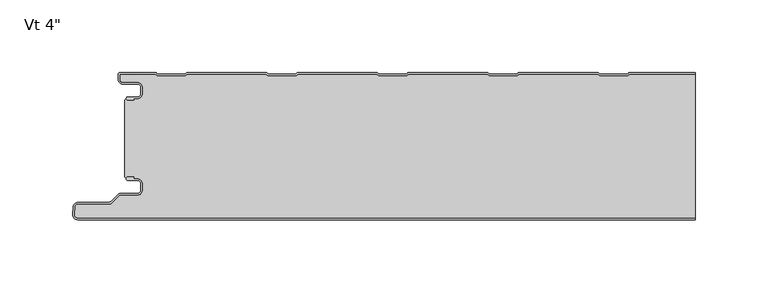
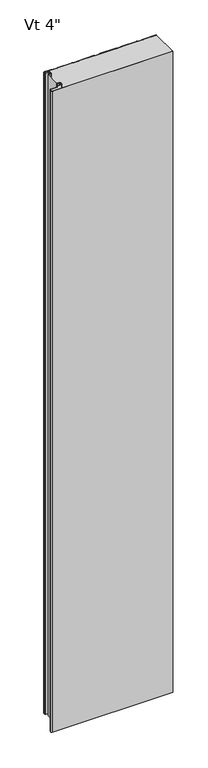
"""IFC4 building model written with IfcOpenShell, lengths in millimetres: plate geometry."""

from ifc_helpers import new_model, si_unit, point, frame, frame_2d, origin, origin_with_axes, place, context, project, spatial, polyline, circle_curve, trimmed, segment, composite_curve, outline, extrude, source, transform, mapped, element, save
from ifc_brep_helpers import plane_surface, cylinder_surface, revolved_surface, advanced_brep


def plate_50d09dfa(model_context):
    return source(origin(), model_context, "Body", "SolidModel", [
        advanced_brep(
        [(-194.568691, -17.0015405, 2400.0), (-195.5686883, -18.0015437, 2400.0), (-194.568691, -19.0015351, 2400.0), (-190.5684874, -19.0015351, 2400.0), (-190.5684874, -18.0015405, 2400.0), (-187.8762776, -18.0015405, 2400.0), (-184.5762819, -14.7015449, 2400.0), (-184.5762819, -10.3015536, 2400.0), (-187.8762774, -7.0015581, 2400.0), (-198.2962563, -7.0015581, 2400.0), (-200.0662505, -5.2315639, 2400.0), (-200.0662505, -1.0000163, 2400.0), (-175.5659738, -1.0000163, 2400.0), (-174.1803312, -2.2002553, 2400.0), (-154.8051649, -2.2002553, 2400.0), (-153.419532, -1.0000246, 2400.0), (-99.3661166, -1.0000246, 2400.0), (-97.9804836, -2.2002553, 2400.0), (-78.6053173, -2.2002553, 2400.0), (-77.2196844, -1.0000246, 2400.0), (-23.166269, -1.0000246, 2400.0), (-21.780636, -2.2002553, 2400.0), (-2.4054697, -2.2002553, 2400.0), (-1.0198368, -1.0000246, 2400.0), (53.0335786, -1.0000246, 2400.0), (54.4192116, -2.2002553, 2400.0), (73.7943779, -2.2002553, 2400.0), (75.1800108, -1.0000246, 2400.0), (129.2334262, -1.0000246, 2400.0), (130.6190592, -2.2002553, 2400.0), (149.9942255, -2.2002553, 2400.0), (151.3798584, -1.0000246, 2400.0), (196.5999998, -1.0000246, 2400.0), (196.5999998, -2.46e-05, 2400.0), (151.5290096, -2.46e-05, 2400.0), (150.6123927, -0.3418131, 2400.0), (149.6213451, -1.2002553, 2400.0), (130.9919396, -1.2002553, 2400.0), (130.000892, -0.3418131, 2400.0), (129.0842751, -2.46e-05, 2400.0), (75.329162, -2.46e-05, 2400.0), (74.4125451, -0.3418131, 2400.0), (73.4214975, -1.2002553, 2400.0), (54.792092, -1.2002553, 2400.0), (53.8010444, -0.3418131, 2400.0), (52.8844275, -2.46e-05, 2400.0), (-0.8706856, -2.46e-05, 2400.0), (-1.7873025, -0.3418131, 2400.0), (-2.7783501, -1.2002553, 2400.0), (-21.4077556, -1.2002553, 2400.0), (-22.3988032, -0.3418131, 2400.0), (-23.3154201, -2.46e-05, 2400.0), (-77.0705332, -2.46e-05, 2400.0), (-77.9871501, -0.3418131, 2400.0), (-78.9781977, -1.2002553, 2400.0), (-97.6076032, -1.2002553, 2400.0), (-98.5986508, -0.3418131, 2400.0), (-99.5152677, -2.46e-05, 2400.0), (-153.2703808, -2.46e-05, 2400.0), (-154.1869977, -0.3418131, 2400.0), (-155.1780453, -1.2002553, 2400.0), (-173.8074508, -1.2002553, 2400.0), (-174.7984984, -0.3418131, 2400.0), (-175.7152067, -2.46e-05, 2400.0), (-199.6662543, -1.63e-05, 2400.0), (-201.0662505, -1.4000124, 2400.0), (-201.0662505, -5.2315639, 2400.0), (-198.2962563, -8.0015581, 2400.0), (-187.8762774, -8.0015581, 2400.0), (-185.5762819, -10.3015536, 2400.0), (-185.5762819, -14.7015449, 2400.0), (-187.8762776, -17.0015405, 2400.0), (-194.568691, -17.0015405, 0.0), (-187.8762776, -17.0015405, 0.0), (-185.5762819, -14.7015449, 0.0), (-185.5762819, -10.3015536, 0.0), (-187.8762774, -8.0015581, 0.0), (-198.2962563, -8.0015581, 0.0), (-201.0662505, -5.2315639, 0.0), (-201.0662505, -1.4000124, 0.0), (-199.6662543, -1.63e-05, 0.0), (-175.7151153, -1.63e-05, 0.0), (-174.7984984, -0.3418131, 0.0), (-173.8074508, -1.2002553, 0.0), (-155.1780453, -1.2002553, 0.0), (-154.1869977, -0.3418131, 0.0), (-153.2703808, -2.46e-05, 0.0), (-99.5152677, -2.46e-05, 0.0), (-98.5986508, -0.3418131, 0.0), (-97.6076032, -1.2002553, 0.0), (-78.9781977, -1.2002553, 0.0), (-77.9871501, -0.3418131, 0.0), (-77.0705332, -2.46e-05, 0.0), (-23.3154201, -2.46e-05, 0.0), (-22.3988032, -0.3418131, 0.0), (-21.4077556, -1.2002553, 0.0), (-2.7783501, -1.2002553, 0.0), (-1.7873025, -0.3418131, 0.0), (-0.8706856, -2.46e-05, 0.0), (52.8844275, -2.46e-05, 0.0), (53.8010444, -0.3418131, 0.0), (54.792092, -1.2002553, 0.0), (73.4214975, -1.2002553, 0.0), (74.4125451, -0.3418131, 0.0), (75.329162, -2.46e-05, 0.0), (129.0842751, -2.46e-05, 0.0), (130.000892, -0.3418131, 0.0), (130.9919396, -1.2002553, 0.0), (149.6213451, -1.2002553, 0.0), (150.6123927, -0.3418131, 0.0), (151.5290096, -2.46e-05, 0.0), (196.5999998, -2.46e-05, 0.0), (196.5999998, -1.0000246, 0.0), (151.3798584, -1.0000246, 0.0), (149.9942255, -2.2002553, 0.0), (130.6190592, -2.2002553, 0.0), (129.2334262, -1.0000246, 0.0), (75.1800108, -1.0000246, 0.0), (73.7943779, -2.2002553, 0.0), (54.4192116, -2.2002553, 0.0), (53.0335786, -1.0000246, 0.0), (-1.0198368, -1.0000246, 0.0), (-2.4054697, -2.2002553, 0.0), (-21.780636, -2.2002553, 0.0), (-23.166269, -1.0000246, 0.0), (-77.2196844, -1.0000246, 0.0), (-78.6053173, -2.2002553, 0.0), (-97.9804836, -2.2002553, 0.0), (-99.3661166, -1.0000246, 0.0), (-153.419532, -1.0000246, 0.0), (-154.8051649, -2.2002553, 0.0), (-174.1803312, -2.2002553, 0.0), (-175.5659738, -1.0000163, 0.0), (-200.0662505, -1.0000163, 0.0), (-200.0662505, -5.2315639, 0.0), (-198.2962563, -7.0015581, 0.0), (-187.8762774, -7.0015581, 0.0), (-184.5762819, -10.3015536, 0.0), (-184.5762819, -14.7015449, 0.0), (-187.8762776, -18.0015405, 0.0), (-190.5684874, -18.0015405, 0.0), (-190.5684874, -19.0015351, 0.0), (-194.568691, -19.0015351, 0.0), (-195.5686882, -18.0015438, 0.0)],
        [
            (0, 1, circle_curve(frame((-194.568691, -18.0015378, 2400.0), z_axis=(0.0, 0.0, 1.0), x_axis=(1.0, 0.0, 0.0)), 0.9999973)),
            (1, 2, circle_curve(frame((-194.568691, -18.0015379, 2400.0), z_axis=(0.0, 0.0, 1.0), x_axis=(1.0, 0.0, 0.0)), 0.9999972)),
            (2, 3),
            (3, 4),
            (4, 5),
            (5, 6, circle_curve(frame((-187.8762776, -14.7015449, 2400.0), z_axis=(0.0, 0.0, 1.0), x_axis=(1.0, 0.0, 0.0)), 3.2999957)),
            (6, 7),
            (7, 8, circle_curve(frame((-187.8762774, -10.3015536, 2400.0), z_axis=(0.0, 0.0, 1.0), x_axis=(1.0, 0.0, 0.0)), 3.2999955)),
            (8, 9),
            (9, 10, circle_curve(frame((-198.2962563, -5.2315639, 2400.0), z_axis=(0.0, 0.0, -1.0), x_axis=(1.0, 0.0, 0.0)), 1.7699942)),
            (10, 11),
            (11, 12),
            (12, 13),
            (13, 14),
            (14, 15),
            (15, 16),
            (16, 17),
            (17, 18),
            (18, 19),
            (19, 20),
            (20, 21),
            (21, 22),
            (22, 23),
            (23, 24),
            (24, 25),
            (25, 26),
            (26, 27),
            (27, 28),
            (28, 29),
            (29, 30),
            (30, 31),
            (31, 32),
            (32, 33),
            (33, 34),
            (34, 35, circle_curve(frame((151.5290096, -1.4000218, 2400.0), z_axis=(0.0, 0.0, 1.0), x_axis=(1.0, 0.0, 0.0)), 1.3999972)),
            (35, 36),
            (36, 37),
            (37, 38),
            (38, 39, circle_curve(frame((129.0842751, -1.4000218, 2400.0), z_axis=(0.0, 0.0, 1.0), x_axis=(1.0, 0.0, 0.0)), 1.3999972)),
            (39, 40),
            (40, 41, circle_curve(frame((75.329162, -1.4000218, 2400.0), z_axis=(0.0, 0.0, 1.0), x_axis=(1.0, 0.0, 0.0)), 1.3999972)),
            (41, 42),
            (42, 43),
            (43, 44),
            (44, 45, circle_curve(frame((52.8844275, -1.4000218, 2400.0), z_axis=(0.0, 0.0, 1.0), x_axis=(1.0, 0.0, 0.0)), 1.3999972)),
            (45, 46),
            (46, 47, circle_curve(frame((-0.8706856, -1.4000218, 2400.0), z_axis=(0.0, 0.0, 1.0), x_axis=(1.0, 0.0, 0.0)), 1.3999972)),
            (47, 48),
            (48, 49),
            (49, 50),
            (50, 51, circle_curve(frame((-23.3154201, -1.4000218, 2400.0), z_axis=(0.0, 0.0, 1.0), x_axis=(1.0, 0.0, 0.0)), 1.3999972)),
            (51, 52),
            (52, 53, circle_curve(frame((-77.0705332, -1.4000218, 2400.0), z_axis=(0.0, 0.0, 1.0), x_axis=(1.0, 0.0, 0.0)), 1.3999972)),
            (53, 54),
            (54, 55),
            (55, 56),
            (56, 57, circle_curve(frame((-99.5152677, -1.4000218, 2400.0), z_axis=(0.0, 0.0, 1.0), x_axis=(1.0, 0.0, 0.0)), 1.3999972)),
            (57, 58),
            (58, 59, circle_curve(frame((-153.2703808, -1.4000218, 2400.0), z_axis=(0.0, 0.0, 1.0), x_axis=(1.0, 0.0, 0.0)), 1.3999972)),
            (59, 60),
            (60, 61),
            (61, 62),
            (62, 63, circle_curve(frame((-175.7151153, -1.4000218, 2400.0), z_axis=(0.0, 0.0, 1.0), x_axis=(1.0, 0.0, 0.0)), 1.3999972)),
            (63, 64),
            (64, 65, circle_curve(frame((-199.6662543, -1.4000124, 2400.0), z_axis=(0.0, 0.0, 1.0), x_axis=(1.0, 0.0, 0.0)), 1.3999962)),
            (65, 66),
            (66, 67, circle_curve(frame((-198.2962563, -5.2315639, 2400.0), z_axis=(0.0, 0.0, 1.0), x_axis=(1.0, 0.0, 0.0)), 2.7699942)),
            (67, 68),
            (68, 69, circle_curve(frame((-187.8762774, -10.3015536, 2400.0), z_axis=(0.0, 0.0, -1.0), x_axis=(1.0, 0.0, 0.0)), 2.2999955)),
            (69, 70),
            (70, 71, circle_curve(frame((-187.8762776, -14.7015449, 2400.0), z_axis=(0.0, 0.0, -1.0), x_axis=(1.0, 0.0, 0.0)), 2.2999957)),
            (71, 0),
            (72, 73),
            (73, 74, circle_curve(frame((-187.8762776, -14.7015449, 0.0), z_axis=(0.0, 0.0, 1.0), x_axis=(1.0, 0.0, 0.0)), 2.2999957)),
            (74, 75),
            (75, 76, circle_curve(frame((-187.8762774, -10.3015536, 0.0), z_axis=(0.0, 0.0, 1.0), x_axis=(1.0, 0.0, 0.0)), 2.2999955)),
            (76, 77),
            (77, 78, circle_curve(frame((-198.2962563, -5.2315639, 0.0), z_axis=(0.0, 0.0, -1.0), x_axis=(1.0, 0.0, 0.0)), 2.7699942)),
            (78, 79),
            (79, 80, circle_curve(frame((-199.6662543, -1.4000124, 0.0), z_axis=(0.0, 0.0, -1.0), x_axis=(1.0, 0.0, 0.0)), 1.3999962)),
            (80, 81),
            (81, 82, circle_curve(frame((-175.7151153, -1.4000218, 0.0), z_axis=(0.0, 0.0, -1.0), x_axis=(1.0, 0.0, 0.0)), 1.3999972)),
            (82, 83),
            (83, 84),
            (84, 85),
            (85, 86, circle_curve(frame((-153.2703808, -1.4000218, 0.0), z_axis=(0.0, 0.0, -1.0), x_axis=(1.0, 0.0, 0.0)), 1.3999972)),
            (86, 87),
            (87, 88, circle_curve(frame((-99.5152677, -1.4000218, 0.0), z_axis=(0.0, 0.0, -1.0), x_axis=(1.0, 0.0, 0.0)), 1.3999972)),
            (88, 89),
            (89, 90),
            (90, 91),
            (91, 92, circle_curve(frame((-77.0705332, -1.4000218, 0.0), z_axis=(0.0, 0.0, -1.0), x_axis=(1.0, 0.0, 0.0)), 1.3999972)),
            (92, 93),
            (93, 94, circle_curve(frame((-23.3154201, -1.4000218, 0.0), z_axis=(0.0, 0.0, -1.0), x_axis=(1.0, 0.0, 0.0)), 1.3999972)),
            (94, 95),
            (95, 96),
            (96, 97),
            (97, 98, circle_curve(frame((-0.8706856, -1.4000218, 0.0), z_axis=(0.0, 0.0, -1.0), x_axis=(1.0, 0.0, 0.0)), 1.3999972)),
            (98, 99),
            (99, 100, circle_curve(frame((52.8844275, -1.4000218, 0.0), z_axis=(0.0, 0.0, -1.0), x_axis=(1.0, 0.0, 0.0)), 1.3999972)),
            (100, 101),
            (101, 102),
            (102, 103),
            (103, 104, circle_curve(frame((75.329162, -1.4000218, 0.0), z_axis=(0.0, 0.0, -1.0), x_axis=(1.0, 0.0, 0.0)), 1.3999972)),
            (104, 105),
            (105, 106, circle_curve(frame((129.0842751, -1.4000218, 0.0), z_axis=(0.0, 0.0, -1.0), x_axis=(1.0, 0.0, 0.0)), 1.3999972)),
            (106, 107),
            (107, 108),
            (108, 109),
            (109, 110, circle_curve(frame((151.5290096, -1.4000218, 0.0), z_axis=(0.0, 0.0, -1.0), x_axis=(1.0, 0.0, 0.0)), 1.3999972)),
            (110, 111),
            (111, 112),
            (112, 113),
            (113, 114),
            (114, 115),
            (115, 116),
            (116, 117),
            (117, 118),
            (118, 119),
            (119, 120),
            (120, 121),
            (121, 122),
            (122, 123),
            (123, 124),
            (124, 125),
            (125, 126),
            (126, 127),
            (127, 128),
            (128, 129),
            (129, 130),
            (130, 131),
            (131, 132),
            (132, 133),
            (133, 134),
            (134, 135, circle_curve(frame((-198.2962563, -5.2315639, 0.0), z_axis=(0.0, 0.0, 1.0), x_axis=(1.0, 0.0, 0.0)), 1.7699942)),
            (135, 136),
            (136, 137, circle_curve(frame((-187.8762774, -10.3015536, 0.0), z_axis=(0.0, 0.0, -1.0), x_axis=(1.0, 0.0, 0.0)), 3.2999955)),
            (137, 138),
            (138, 139, circle_curve(frame((-187.8762776, -14.7015449, 0.0), z_axis=(0.0, 0.0, -1.0), x_axis=(1.0, 0.0, 0.0)), 3.2999957)),
            (139, 140),
            (140, 141),
            (141, 142),
            (142, 143, circle_curve(frame((-194.568691, -18.0015379, 0.0), z_axis=(0.0, 0.0, -1.0), x_axis=(1.0, 0.0, 0.0)), 0.9999972)),
            (143, 72, circle_curve(frame((-194.568691, -18.0015378, 0.0), z_axis=(0.0, 0.0, -1.0), x_axis=(1.0, 0.0, 0.0)), 0.9999973)),
            (32, 112),
            (111, 33),
            (71, 73),
            (72, 0),
            (70, 74),
            (69, 75),
            (68, 76),
            (67, 77),
            (66, 78),
            (65, 79),
            (64, 80),
            (63, 81),
            (62, 82),
            (61, 83),
            (60, 84),
            (59, 85),
            (58, 86),
            (57, 87),
            (56, 88),
            (55, 89),
            (54, 90),
            (53, 91),
            (52, 92),
            (51, 93),
            (50, 94),
            (49, 95),
            (48, 96),
            (47, 97),
            (46, 98),
            (45, 99),
            (44, 100),
            (43, 101),
            (42, 102),
            (41, 103),
            (40, 104),
            (39, 105),
            (38, 106),
            (37, 107),
            (36, 108),
            (35, 109),
            (34, 110),
            (31, 113),
            (30, 114),
            (29, 115),
            (28, 116),
            (27, 117),
            (26, 118),
            (25, 119),
            (24, 120),
            (23, 121),
            (22, 122),
            (21, 123),
            (20, 124),
            (19, 125),
            (18, 126),
            (17, 127),
            (16, 128),
            (15, 129),
            (14, 130),
            (13, 131),
            (12, 132),
            (11, 133),
            (10, 134),
            (9, 135),
            (8, 136),
            (7, 137),
            (6, 138),
            (5, 139),
            (4, 140),
            (3, 141),
            (2, 142),
            (1, 143),
        ],
        [
            plane_surface(frame((336.8000002, -2.46e-05, 2400.0), z_axis=(0.0, 0.0, 1.0), x_axis=(0.0, 1.0, 0.0))),
            plane_surface(frame((336.8000002, -2.46e-05, 0.0), z_axis=(0.0, 0.0, -1.0), x_axis=(0.0, 1.0, 0.0))),
            plane_surface(frame((196.5999998, -111.6000246, 2400.0), z_axis=(1.0, 0.0, 0.0), x_axis=(0.0, 0.0, -1.0))),
            plane_surface(frame((-194.568691, -17.0015405, 2400.0), z_axis=(0.0, 1.0, 0.0), x_axis=(0.0, 0.0, -1.0))),
            revolved_surface(polyline([(-185.5762819, -14.7015449, 0.0), (-185.5762819, -14.7015449, 2400.0)]), (-187.8762776, -14.7015449, 2400.0), (0.0, 0.0, -1.0)),
            plane_surface(frame((-185.5762819, -14.7015449, 2400.0), z_axis=(-1.0, 0.0, 0.0), x_axis=(0.0, 0.0, -1.0))),
            revolved_surface(polyline([(-185.5762819, -10.3015536, 0.0), (-185.5762819, -10.3015536, 2400.0)]), (-187.8762774, -10.3015536, 2400.0), (0.0, 0.0, -1.0)),
            plane_surface(frame((-187.8762774, -8.0015581, 2400.0), z_axis=(0.0, -1.0, 0.0), x_axis=(0.0, 0.0, -1.0))),
            cylinder_surface(frame((-198.2962563, -5.2315639, 2400.0), z_axis=(0.0, 0.0, 1.0), x_axis=(1.0, 0.0, 0.0)), 2.7699942),
            plane_surface(frame((-201.0662505, -5.2315639, 2400.0), z_axis=(-1.0, 0.0, 0.0), x_axis=(0.0, 0.0, -1.0))),
            cylinder_surface(frame((-199.6662543, -1.4000124, 2400.0), z_axis=(0.0, 0.0, 1.0), x_axis=(1.0, 0.0, 0.0)), 1.3999962),
            plane_surface(frame((-199.6662543, -1.63e-05, 2400.0), z_axis=(0.0, 1.0, 0.0), x_axis=(0.0, 0.0, -1.0))),
            cylinder_surface(frame((-175.7151153, -1.4000218, 2400.0), z_axis=(0.0, 0.0, 1.0), x_axis=(1.0, 0.0, 0.0)), 1.3999972),
            plane_surface(frame((-174.7984984, -0.3418131, 2400.0), z_axis=(0.6547276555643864, 0.7558648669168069, 0.0), x_axis=(0.0, 0.0, -1.0))),
            plane_surface(frame((-164.4927481, -1.2002553, 2400.0), z_axis=(0.0, 1.0, 0.0), x_axis=(0.0, 0.0, -1.0))),
            plane_surface(frame((-155.1780453, -1.2002553, 2400.0), z_axis=(-0.6547276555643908, 0.7558648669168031, 0.0), x_axis=(0.0, 0.0, -1.0))),
            cylinder_surface(frame((-153.2703808, -1.4000218, 2400.0), z_axis=(0.0, 0.0, 1.0), x_axis=(1.0, 0.0, 0.0)), 1.3999972),
            plane_surface(frame((-153.2703808, -2.46e-05, 2400.0), z_axis=(0.0, 1.0, 0.0), x_axis=(0.0, 0.0, -1.0))),
            cylinder_surface(frame((-99.5152677, -1.4000218, 2400.0), z_axis=(0.0, 0.0, 1.0), x_axis=(1.0, 0.0, 0.0)), 1.3999972),
            plane_surface(frame((-98.5986508, -0.3418131, 2400.0), z_axis=(0.6547276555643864, 0.7558648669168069, 0.0), x_axis=(0.0, 0.0, -1.0))),
            plane_surface(frame((-88.2929005, -1.2002553, 2400.0), z_axis=(0.0, 1.0, 0.0), x_axis=(0.0, 0.0, -1.0))),
            plane_surface(frame((-78.9781977, -1.2002553, 2400.0), z_axis=(-0.6547276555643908, 0.7558648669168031, 0.0), x_axis=(0.0, 0.0, -1.0))),
            cylinder_surface(frame((-77.0705332, -1.4000218, 2400.0), z_axis=(0.0, 0.0, 1.0), x_axis=(1.0, 0.0, 0.0)), 1.3999972),
            plane_surface(frame((-77.0705332, -2.46e-05, 2400.0), z_axis=(0.0, 1.0, 0.0), x_axis=(0.0, 0.0, -1.0))),
            cylinder_surface(frame((-23.3154201, -1.4000218, 2400.0), z_axis=(0.0, 0.0, 1.0), x_axis=(1.0, 0.0, 0.0)), 1.3999972),
            plane_surface(frame((-22.3988032, -0.3418131, 2400.0), z_axis=(0.6547276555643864, 0.7558648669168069, 0.0), x_axis=(0.0, 0.0, -1.0))),
            plane_surface(frame((-12.0930529, -1.2002553, 2400.0), z_axis=(0.0, 1.0, 0.0), x_axis=(0.0, 0.0, -1.0))),
            plane_surface(frame((-2.7783501, -1.2002553, 2400.0), z_axis=(-0.6547276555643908, 0.7558648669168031, 0.0), x_axis=(0.0, 0.0, -1.0))),
            cylinder_surface(frame((-0.8706856, -1.4000218, 2400.0), z_axis=(0.0, 0.0, 1.0), x_axis=(1.0, 0.0, 0.0)), 1.3999972),
            plane_surface(frame((-0.8706856, -2.46e-05, 2400.0), z_axis=(0.0, 1.0, 0.0), x_axis=(0.0, 0.0, -1.0))),
            cylinder_surface(frame((52.8844275, -1.4000218, 2400.0), z_axis=(0.0, 0.0, 1.0), x_axis=(1.0, 0.0, 0.0)), 1.3999972),
            plane_surface(frame((53.8010444, -0.3418131, 2400.0), z_axis=(0.6547276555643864, 0.7558648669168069, 0.0), x_axis=(0.0, 0.0, -1.0))),
            plane_surface(frame((64.1067947, -1.2002553, 2400.0), z_axis=(0.0, 1.0, 0.0), x_axis=(0.0, 0.0, -1.0))),
            plane_surface(frame((73.4214975, -1.2002553, 2400.0), z_axis=(-0.6547276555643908, 0.7558648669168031, 0.0), x_axis=(0.0, 0.0, -1.0))),
            cylinder_surface(frame((75.329162, -1.4000218, 2400.0), z_axis=(0.0, 0.0, 1.0), x_axis=(1.0, 0.0, 0.0)), 1.3999972),
            plane_surface(frame((75.329162, -2.46e-05, 2400.0), z_axis=(0.0, 1.0, 0.0), x_axis=(0.0, 0.0, -1.0))),
            cylinder_surface(frame((129.0842751, -1.4000218, 2400.0), z_axis=(0.0, 0.0, 1.0), x_axis=(1.0, 0.0, 0.0)), 1.3999972),
            plane_surface(frame((130.000892, -0.3418131, 2400.0), z_axis=(0.6547276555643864, 0.7558648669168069, 0.0), x_axis=(0.0, 0.0, -1.0))),
            plane_surface(frame((140.3066423, -1.2002553, 2400.0), z_axis=(0.0, 1.0, 0.0), x_axis=(0.0, 0.0, -1.0))),
            plane_surface(frame((149.6213451, -1.2002553, 2400.0), z_axis=(-0.6547276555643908, 0.7558648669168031, 0.0), x_axis=(0.0, 0.0, -1.0))),
            cylinder_surface(frame((151.5290096, -1.4000218, 2400.0), z_axis=(0.0, 0.0, 1.0), x_axis=(1.0, 0.0, 0.0)), 1.3999972),
            plane_surface(frame((151.5290096, -2.46e-05, 2400.0), z_axis=(0.0, 1.0, 0.0), x_axis=(0.0, 0.0, -1.0))),
            plane_surface(frame((205.4332738, -1.0000246, 2400.0), z_axis=(0.0, -1.0, 0.0), x_axis=(0.0, 0.0, -1.0))),
            plane_surface(frame((151.3798584, -1.0000246, 2400.0), z_axis=(0.6547276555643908, -0.7558648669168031, 0.0), x_axis=(0.0, 0.0, -1.0))),
            plane_surface(frame((149.9942255, -2.2002553, 2400.0), z_axis=(0.0, -1.0, 0.0), x_axis=(0.0, 0.0, -1.0))),
            plane_surface(frame((130.6190592, -2.2002553, 2400.0), z_axis=(-0.6547276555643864, -0.7558648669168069, 0.0), x_axis=(0.0, 0.0, -1.0))),
            plane_surface(frame((129.2334262, -1.0000246, 2400.0), z_axis=(0.0, -1.0, 0.0), x_axis=(0.0, 0.0, -1.0))),
            plane_surface(frame((75.1800108, -1.0000246, 2400.0), z_axis=(0.6547276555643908, -0.7558648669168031, 0.0), x_axis=(0.0, 0.0, -1.0))),
            plane_surface(frame((73.7943779, -2.2002553, 2400.0), z_axis=(0.0, -1.0, 0.0), x_axis=(0.0, 0.0, -1.0))),
            plane_surface(frame((54.4192116, -2.2002553, 2400.0), z_axis=(-0.6547276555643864, -0.7558648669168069, 0.0), x_axis=(0.0, 0.0, -1.0))),
            plane_surface(frame((53.0335786, -1.0000246, 2400.0), z_axis=(0.0, -1.0, 0.0), x_axis=(0.0, 0.0, -1.0))),
            plane_surface(frame((-1.0198368, -1.0000246, 2400.0), z_axis=(0.6547276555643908, -0.7558648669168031, 0.0), x_axis=(0.0, 0.0, -1.0))),
            plane_surface(frame((-2.4054697, -2.2002553, 2400.0), z_axis=(0.0, -1.0, 0.0), x_axis=(0.0, 0.0, -1.0))),
            plane_surface(frame((-21.780636, -2.2002553, 2400.0), z_axis=(-0.6547276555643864, -0.7558648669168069, 0.0), x_axis=(0.0, 0.0, -1.0))),
            plane_surface(frame((-23.166269, -1.0000246, 2400.0), z_axis=(0.0, -1.0, 0.0), x_axis=(0.0, 0.0, -1.0))),
            plane_surface(frame((-77.2196844, -1.0000246, 2400.0), z_axis=(0.6547276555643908, -0.7558648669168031, 0.0), x_axis=(0.0, 0.0, -1.0))),
            plane_surface(frame((-78.6053173, -2.2002553, 2400.0), z_axis=(0.0, -1.0, 0.0), x_axis=(0.0, 0.0, -1.0))),
            plane_surface(frame((-97.9804836, -2.2002553, 2400.0), z_axis=(-0.6547276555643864, -0.7558648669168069, 0.0), x_axis=(0.0, 0.0, -1.0))),
            plane_surface(frame((-99.3661166, -1.0000246, 2400.0), z_axis=(0.0, -1.0, 0.0), x_axis=(0.0, 0.0, -1.0))),
            plane_surface(frame((-153.419532, -1.0000246, 2400.0), z_axis=(0.6547276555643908, -0.7558648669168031, 0.0), x_axis=(0.0, 0.0, -1.0))),
            plane_surface(frame((-154.8051649, -2.2002553, 2400.0), z_axis=(0.0, -1.0, 0.0), x_axis=(0.0, 0.0, -1.0))),
            plane_surface(frame((-174.1803312, -2.2002553, 2400.0), z_axis=(-0.6547276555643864, -0.7558648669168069, 0.0), x_axis=(0.0, 0.0, -1.0))),
            plane_surface(frame((-175.5659738, -1.0000163, 2400.0), z_axis=(0.0, -1.0, 0.0), x_axis=(0.0, 0.0, -1.0))),
            plane_surface(frame((-200.0662505, -1.0000163, 2400.0), z_axis=(1.0, 0.0, 0.0), x_axis=(0.0, 0.0, -1.0))),
            revolved_surface(polyline([(-196.5262621, -5.2315639, 0.0), (-196.5262621, -5.2315639, 2400.0)]), (-198.2962563, -5.2315639, 2400.0), (0.0, 0.0, -1.0)),
            plane_surface(frame((-198.2962563, -7.0015581, 2400.0), z_axis=(0.0, 1.0, 0.0), x_axis=(0.0, 0.0, -1.0))),
            cylinder_surface(frame((-187.8762774, -10.3015536, 2400.0), z_axis=(0.0, 0.0, 1.0), x_axis=(1.0, 0.0, 0.0)), 3.2999955),
            plane_surface(frame((-184.5762819, -10.3015536, 2400.0), z_axis=(1.0, 0.0, 0.0), x_axis=(0.0, 0.0, -1.0))),
            cylinder_surface(frame((-187.8762776, -14.7015449, 2400.0), z_axis=(0.0, 0.0, 1.0), x_axis=(1.0, 0.0, 0.0)), 3.2999957),
            plane_surface(frame((-187.8762776, -18.0015405, 2400.0), z_axis=(0.0, -1.0, 0.0), x_axis=(0.0, 0.0, -1.0))),
            plane_surface(frame((-190.5684874, -18.0015405, 2400.0), z_axis=(1.0, 0.0, 0.0), x_axis=(0.0, 0.0, -1.0))),
            plane_surface(frame((-190.5684874, -19.0015351, 2400.0), z_axis=(0.0, -1.0, 0.0), x_axis=(0.0, 0.0, -1.0))),
            cylinder_surface(frame((-194.568691, -18.0015379, 2400.0), z_axis=(0.0, 0.0, 1.0), x_axis=(1.0, 0.0, 0.0)), 0.9999972),
            cylinder_surface(frame((-194.568691, -18.0015378, 2400.0), z_axis=(0.0, 0.0, 1.0), x_axis=(1.0, 0.0, 0.0)), 0.9999973),
        ],
        [
            (0, [[1, 2, 3, 4, 5, 6, 7, 8, 9, 10, 11, 12, 13, 14, 15, 16, 17, 18, 19, 20, 21, 22, 23, 24, 25, 26, 27, 28, 29, 30, 31, 32, 33, 34, 35, 36, 37, 38, 39, 40, 41, 42, 43, 44, 45, 46, 47, 48, 49, 50, 51, 52, 53, 54, 55, 56, 57, 58, 59, 60, 61, 62, 63, 64, 65, 66, 67, 68, 69, 70, 71, 72]]),
            (1, [[73, 74, 75, 76, 77, 78, 79, 80, 81, 82, 83, 84, 85, 86, 87, 88, 89, 90, 91, 92, 93, 94, 95, 96, 97, 98, 99, 100, 101, 102, 103, 104, 105, 106, 107, 108, 109, 110, 111, 112, 113, 114, 115, 116, 117, 118, 119, 120, 121, 122, 123, 124, 125, 126, 127, 128, 129, 130, 131, 132, 133, 134, 135, 136, 137, 138, 139, 140, 141, 142, 143, 144]]),
            (2, [[145, -112, 146, -33]]),
            (3, [[147, -73, 148, -72]]),
            (4, [[149, -74, -147, -71]]),
            (5, [[150, -75, -149, -70]]),
            (6, [[151, -76, -150, -69]]),
            (7, [[152, -77, -151, -68]]),
            (8, [[153, -78, -152, -67]]),
            (9, [[154, -79, -153, -66]]),
            (10, [[155, -80, -154, -65]]),
            (11, [[156, -81, -155, -64]]),
            (12, [[157, -82, -156, -63]]),
            (13, [[158, -83, -157, -62]]),
            (14, [[159, -84, -158, -61]]),
            (15, [[160, -85, -159, -60]]),
            (16, [[161, -86, -160, -59]]),
            (17, [[162, -87, -161, -58]]),
            (18, [[163, -88, -162, -57]]),
            (19, [[164, -89, -163, -56]]),
            (20, [[165, -90, -164, -55]]),
            (21, [[166, -91, -165, -54]]),
            (22, [[167, -92, -166, -53]]),
            (23, [[168, -93, -167, -52]]),
            (24, [[169, -94, -168, -51]]),
            (25, [[170, -95, -169, -50]]),
            (26, [[171, -96, -170, -49]]),
            (27, [[172, -97, -171, -48]]),
            (28, [[173, -98, -172, -47]]),
            (29, [[174, -99, -173, -46]]),
            (30, [[175, -100, -174, -45]]),
            (31, [[176, -101, -175, -44]]),
            (32, [[177, -102, -176, -43]]),
            (33, [[178, -103, -177, -42]]),
            (34, [[179, -104, -178, -41]]),
            (35, [[180, -105, -179, -40]]),
            (36, [[181, -106, -180, -39]]),
            (37, [[182, -107, -181, -38]]),
            (38, [[183, -108, -182, -37]]),
            (39, [[184, -109, -183, -36]]),
            (40, [[185, -110, -184, -35]]),
            (41, [[-34, -146, -111, -185]]),
            (42, [[-113, -145, -32, 186]]),
            (43, [[187, -114, -186, -31]]),
            (44, [[188, -115, -187, -30]]),
            (45, [[189, -116, -188, -29]]),
            (46, [[190, -117, -189, -28]]),
            (47, [[191, -118, -190, -27]]),
            (48, [[192, -119, -191, -26]]),
            (49, [[193, -120, -192, -25]]),
            (50, [[194, -121, -193, -24]]),
            (51, [[195, -122, -194, -23]]),
            (52, [[196, -123, -195, -22]]),
            (53, [[197, -124, -196, -21]]),
            (54, [[198, -125, -197, -20]]),
            (55, [[199, -126, -198, -19]]),
            (56, [[200, -127, -199, -18]]),
            (57, [[201, -128, -200, -17]]),
            (58, [[202, -129, -201, -16]]),
            (59, [[203, -130, -202, -15]]),
            (60, [[204, -131, -203, -14]]),
            (61, [[205, -132, -204, -13]]),
            (62, [[206, -133, -205, -12]]),
            (63, [[207, -134, -206, -11]]),
            (64, [[208, -135, -207, -10]]),
            (65, [[209, -136, -208, -9]]),
            (66, [[210, -137, -209, -8]]),
            (67, [[211, -138, -210, -7]]),
            (68, [[212, -139, -211, -6]]),
            (69, [[213, -140, -212, -5]]),
            (70, [[214, -141, -213, -4]]),
            (71, [[215, -142, -214, -3]]),
            (72, [[216, -143, -215, -2]]),
            (73, [[-148, -144, -216, -1]]),
        ],
    ),
        extrude(outline(composite_curve([segment(polyline([(-232.6087619, -97.7191544), (-232.1690674, -92.6951077)]), True, "CONTINUOUS"), segment(trimmed(circle_curve(frame_2d((-228.5198391, -93.3059089)), 3.6999926), [point((-232.1690674, -92.6951077))], [point((-228.5198391, -89.6059163))], False, "CARTESIAN"), True, "CONTINUOUS"), segment(polyline([(-228.5198391, -89.6059163), (-207.3773995, -89.6059163)]), True, "CONTINUOUS"), segment(trimmed(circle_curve(frame_2d((-207.3773995, -88.3059189)), 1.2999974), [point((-207.3773995, -89.6059163))], [point((-206.4581626, -89.2251558))], True, "CARTESIAN"), True, "CONTINUOUS"), segment(polyline([(-206.4581626, -89.2251558), (-201.6297451, -84.3967384)]), True, "CONTINUOUS"), segment(trimmed(circle_curve(frame_2d((-199.7205606, -86.3059229)), 2.6999946), [point((-201.6297451, -84.3967384))], [point((-199.7205606, -83.6059283))], False, "CARTESIAN"), True, "CONTINUOUS"), segment(polyline([(-199.7205606, -83.6059283), (-187.9096715, -83.6059283)]), True, "CONTINUOUS"), segment(trimmed(circle_curve(frame_2d((-187.9096715, -81.255933)), 2.3499953), [point((-187.9096715, -83.6059283))], [point((-185.5596762, -81.255933))], True, "CARTESIAN"), True, "CONTINUOUS"), segment(polyline([(-185.5596762, -81.255933), (-185.5596762, -76.8559418)]), True, "CONTINUOUS"), segment(trimmed(circle_curve(frame_2d((-187.9096715, -76.8559418)), 2.3499953), [point((-185.5596762, -76.8559418))], [point((-187.9096715, -74.5059465))], True, "CARTESIAN"), True, "CONTINUOUS"), segment(polyline([(-187.9096715, -74.5059465), (-194.4289777, -74.5059465)]), True, "CONTINUOUS"), segment(trimmed(circle_curve(frame_2d((-194.3686906, -73.3074642)), 1.1999976), [point((-194.4289777, -74.5059465))], [point((-195.5683, -73.2769423))], False, "CARTESIAN"), True, "CONTINUOUS"), segment(trimmed(circle_curve(frame_2d((-194.3686906, -73.3074642)), 1.1999976), [point((-195.5683, -73.2769423))], [point((-194.367176, -72.1074676))], False, "CARTESIAN"), True, "CONTINUOUS"), segment(polyline([(-194.367176, -72.1074676), (-190.6087826, -72.1074676), (-190.6087826, -73.5059465), (-187.9096715, -73.5059465)]), True, "CONTINUOUS"), segment(trimmed(circle_curve(frame_2d((-187.9096715, -76.8559418)), 3.3499953), [point((-187.9096715, -73.5059465))], [point((-184.5596762, -76.8559418))], False, "CARTESIAN"), True, "CONTINUOUS"), segment(polyline([(-184.5596762, -76.8559418), (-184.5596762, -81.255933)]), True, "CONTINUOUS"), segment(trimmed(circle_curve(frame_2d((-187.9096715, -81.255933)), 3.3499953), [point((-184.5596762, -81.255933))], [point((-187.9096715, -84.6059283))], False, "CARTESIAN"), True, "CONTINUOUS"), segment(polyline([(-187.9096715, -84.6059283), (-199.7205606, -84.6059283)]), True, "CONTINUOUS"), segment(trimmed(circle_curve(frame_2d((-199.7205606, -86.3059229)), 1.6999946), [point((-199.7205606, -84.6059283))], [point((-200.9226383, -85.1038451))], True, "CARTESIAN"), True, "CONTINUOUS"), segment(polyline([(-200.9226383, -85.1038451), (-206.4247094, -90.6059163), (-228.5198391, -90.6059163)]), True, "CONTINUOUS"), segment(trimmed(circle_curve(frame_2d((-228.5198391, -93.3059089)), 2.6999926), [point((-228.5198391, -90.6059163))], [point((-231.1765707, -92.8245182))], True, "CARTESIAN"), True, "CONTINUOUS"), segment(polyline([(-231.1765707, -92.8245182), (-231.6125697, -97.8063391)]), True, "CONTINUOUS"), segment(trimmed(circle_curve(frame_2d((-229.0521175, -98.0304248)), 2.5702393), [point((-231.6125697, -97.8063391))], [point((-229.1094458, -100.6000246))], True, "CARTESIAN"), True, "CONTINUOUS"), segment(polyline([(-229.1094458, -100.6000246), (196.5999998, -100.6000246), (196.5999998, -101.6000246), (-229.1196851, -101.6000246)]), True, "CONTINUOUS"), segment(trimmed(circle_curve(frame_2d((-229.0521175, -98.0304248)), 3.5702393), [point((-229.1196851, -101.6000246))], [point((-232.6087619, -97.7191544))], False, "CARTESIAN"), True, "CONTINUOUS")], self_intersect=False)), origin_with_axes(), (0.0, 0.0, 1.0), 2400.0),
        advanced_brep(
        [(-195.5683, -73.2708996, 2400.0), (-194.367176, -72.1014249, 2400.0), (-190.6087826, -72.1014249, 2400.0), (-190.6087826, -73.4999038, 2400.0), (-187.9096715, -73.4999038, 2400.0), (-184.5596762, -76.8498991, 2400.0), (-184.5596762, -81.2498903, 2400.0), (-187.9096715, -84.5998856, 2400.0), (-199.7205606, -84.5998856, 2400.0), (-200.9226383, -85.0978025, 2400.0), (-206.4247094, -90.5998736, 2400.0), (-228.5198391, -90.5998736, 2400.0), (-231.1765707, -92.8184756, 2400.0), (-231.6125697, -97.8002964, 2400.0), (-229.0521175, -100.5946214, 2400.0), (196.5999998, -100.6000246, 2400.0), (196.5999998, -1.0000246, 2400.0), (151.3798585, -1.0000246, 2400.0), (149.9942255, -2.2002553, 2400.0), (130.6190592, -2.2002553, 2400.0), (129.2334263, -1.0000246, 2400.0), (75.1800109, -1.0000246, 2400.0), (73.7943779, -2.2002553, 2400.0), (54.4192116, -2.2002553, 2400.0), (53.0335787, -1.0000246, 2400.0), (-1.0198367, -1.0000246, 2400.0), (-2.4054697, -2.2002553, 2400.0), (-21.780636, -2.2002553, 2400.0), (-23.1662689, -1.0000246, 2400.0), (-77.2196843, -1.0000246, 2400.0), (-78.6053173, -2.2002553, 2400.0), (-97.9804836, -2.2002553, 2400.0), (-99.3661165, -1.0000246, 2400.0), (-153.4195319, -1.0000246, 2400.0), (-154.8051649, -2.2002553, 2400.0), (-174.1803312, -2.2002553, 2400.0), (-175.5659738, -1.0000163, 2400.0), (-200.0662504, -1.0000163, 2400.0), (-200.0662504, -5.2315636, 2400.0), (-198.2962562, -7.0015578, 2400.0), (-187.8762777, -7.0015578, 2400.0), (-184.5762818, -10.3015536, 2400.0), (-184.5762818, -14.7015449, 2400.0), (-187.8762775, -18.0015405, 2400.0), (-190.5684873, -18.0015405, 2400.0), (-190.5684873, -19.0015351, 2400.0), (-194.568691, -19.0015351, 2400.0), (-195.5686882, -18.0015438, 2400.0), (-196.5999998, -19.0328554, 2400.0), (-196.5999998, -72.2391997, 2400.0), (-195.5683, -73.2708996, 0.0), (-196.5999998, -72.2391997, 0.0), (-196.5999998, -19.0328554, 0.0), (-195.5686882, -18.0015438, 0.0), (-194.568691, -19.0015351, 0.0), (-190.5684873, -19.0015351, 0.0), (-190.5684873, -18.0015405, 0.0), (-187.8762775, -18.0015405, 0.0), (-184.5762818, -14.7015449, 0.0), (-184.5762818, -10.3015536, 0.0), (-187.8762777, -7.0015578, 0.0), (-198.2962562, -7.0015578, 0.0), (-200.0662504, -5.2315636, 0.0), (-200.0662504, -1.0000163, 0.0), (-175.5659738, -1.0000163, 0.0), (-174.1803312, -2.2002553, 0.0), (-154.8051649, -2.2002553, 0.0), (-153.4195319, -1.0000246, 0.0), (-99.3661165, -1.0000246, 0.0), (-97.9804836, -2.2002553, 0.0), (-78.6053173, -2.2002553, 0.0), (-77.2196843, -1.0000246, 0.0), (-23.1662689, -1.0000246, 0.0), (-21.780636, -2.2002553, 0.0), (-2.4054697, -2.2002553, 0.0), (-1.0198367, -1.0000246, 0.0), (53.0335787, -1.0000246, 0.0), (54.4192116, -2.2002553, 0.0), (73.7943779, -2.2002553, 0.0), (75.1800109, -1.0000246, 0.0), (129.2334263, -1.0000246, 0.0), (130.6190592, -2.2002553, 0.0), (149.9942255, -2.2002553, 0.0), (151.3798585, -1.0000246, 0.0), (196.5999998, -1.0000246, 0.0), (196.5999998, -100.6000246, 0.0), (-229.0521175, -100.6000246, 0.0), (-231.6125697, -97.8002964, 0.0), (-231.1765707, -92.8184756, 0.0), (-228.5198391, -90.5998736, 0.0), (-206.4247094, -90.5998736, 0.0), (-200.9226383, -85.0978025, 0.0), (-199.7205606, -84.5998856, 0.0), (-187.9096715, -84.5998856, 0.0), (-184.5596762, -81.2498903, 0.0), (-184.5596762, -76.8498991, 0.0), (-187.9096715, -73.4999038, 0.0), (-190.6087826, -73.4999038, 0.0), (-190.6087826, -72.1014249, 0.0), (-194.367176, -72.1014249, 0.0)],
        [
            (0, 1, circle_curve(frame((-194.3686906, -73.3014215, 2400.0), z_axis=(0.0, 0.0, -1.0), x_axis=(-1.0, 0.0, 0.0)), 1.1999976)),
            (1, 2),
            (2, 3),
            (3, 4),
            (4, 5, circle_curve(frame((-187.9096715, -76.8498991, 2400.0), z_axis=(0.0, 0.0, -1.0), x_axis=(-1.0, 0.0, 0.0)), 3.3499953)),
            (5, 6),
            (6, 7, circle_curve(frame((-187.9096715, -81.2498903, 2400.0), z_axis=(0.0, 0.0, -1.0), x_axis=(-1.0, 0.0, 0.0)), 3.3499953)),
            (7, 8),
            (8, 9, circle_curve(frame((-199.7205606, -86.2998802, 2400.0), z_axis=(0.0, 0.0, 1.0), x_axis=(-1.0, 0.0, 0.0)), 1.6999946)),
            (9, 10),
            (10, 11),
            (11, 12, circle_curve(frame((-228.5198391, -93.2998662, 2400.0), z_axis=(0.0, 0.0, 1.0), x_axis=(-1.0, 0.0, 0.0)), 2.6999926)),
            (12, 13),
            (13, 14, circle_curve(frame((-229.0521175, -98.0243821, 2400.0), z_axis=(0.0, 0.0, 1.0), x_axis=(-1.0, 0.0, 0.0)), 2.5702393)),
            (14, 15),
            (15, 16),
            (16, 17),
            (17, 18),
            (18, 19),
            (19, 20),
            (20, 21),
            (21, 22),
            (22, 23),
            (23, 24),
            (24, 25),
            (25, 26),
            (26, 27),
            (27, 28),
            (28, 29),
            (29, 30),
            (30, 31),
            (31, 32),
            (32, 33),
            (33, 34),
            (34, 35),
            (35, 36),
            (36, 37),
            (37, 38),
            (38, 39, circle_curve(frame((-198.2962562, -5.2315636, 2400.0), z_axis=(0.0, 0.0, 1.0), x_axis=(-1.0, 0.0, 0.0)), 1.7699942)),
            (39, 40),
            (40, 41, circle_curve(frame((-187.8762777, -10.3015536, 2400.0), z_axis=(0.0, 0.0, -1.0), x_axis=(-1.0, 0.0, 0.0)), 3.2999959)),
            (41, 42),
            (42, 43, circle_curve(frame((-187.8762775, -14.7015449, 2400.0), z_axis=(0.0, 0.0, -1.0), x_axis=(-1.0, 0.0, 0.0)), 3.2999957)),
            (43, 44),
            (44, 45),
            (45, 46),
            (46, 47, circle_curve(frame((-194.568691, -18.0015379, 2400.0), z_axis=(0.0, 0.0, -1.0), x_axis=(-1.0, 0.0, 0.0)), 0.9999972)),
            (47, 48),
            (48, 49),
            (49, 0),
            (50, 51),
            (51, 52),
            (52, 53),
            (53, 54, circle_curve(frame((-194.568691, -18.0015379, 0.0), z_axis=(0.0, 0.0, 1.0), x_axis=(-1.0, 0.0, 0.0)), 0.9999972)),
            (54, 55),
            (55, 56),
            (56, 57),
            (57, 58, circle_curve(frame((-187.8762775, -14.7015449, 0.0), z_axis=(0.0, 0.0, 1.0), x_axis=(-1.0, 0.0, 0.0)), 3.2999957)),
            (58, 59),
            (59, 60, circle_curve(frame((-187.8762777, -10.3015536, 0.0), z_axis=(0.0, 0.0, 1.0), x_axis=(-1.0, 0.0, 0.0)), 3.2999959)),
            (60, 61),
            (61, 62, circle_curve(frame((-198.2962562, -5.2315636, 0.0), z_axis=(0.0, 0.0, -1.0), x_axis=(-1.0, 0.0, 0.0)), 1.7699942)),
            (62, 63),
            (63, 64),
            (64, 65),
            (65, 66),
            (66, 67),
            (67, 68),
            (68, 69),
            (69, 70),
            (70, 71),
            (71, 72),
            (72, 73),
            (73, 74),
            (74, 75),
            (75, 76),
            (76, 77),
            (77, 78),
            (78, 79),
            (79, 80),
            (80, 81),
            (81, 82),
            (82, 83),
            (83, 84),
            (84, 85),
            (85, 86),
            (86, 87, circle_curve(frame((-229.0521175, -98.0243821, 0.0), z_axis=(0.0, 0.0, -1.0), x_axis=(-1.0, 0.0, 0.0)), 2.5702393)),
            (87, 88),
            (88, 89, circle_curve(frame((-228.5198391, -93.2998662, 0.0), z_axis=(0.0, 0.0, -1.0), x_axis=(-1.0, 0.0, 0.0)), 2.6999926)),
            (89, 90),
            (90, 91),
            (91, 92, circle_curve(frame((-199.7205606, -86.2998802, 0.0), z_axis=(0.0, 0.0, -1.0), x_axis=(-1.0, 0.0, 0.0)), 1.6999946)),
            (92, 93),
            (93, 94, circle_curve(frame((-187.9096715, -81.2498903, 0.0), z_axis=(0.0, 0.0, 1.0), x_axis=(-1.0, 0.0, 0.0)), 3.3499953)),
            (94, 95),
            (95, 96, circle_curve(frame((-187.9096715, -76.8498991, 0.0), z_axis=(0.0, 0.0, 1.0), x_axis=(-1.0, 0.0, 0.0)), 3.3499953)),
            (96, 97),
            (97, 98),
            (98, 99),
            (99, 50, circle_curve(frame((-194.3686906, -73.3014215, 0.0), z_axis=(0.0, 0.0, 1.0), x_axis=(-1.0, 0.0, 0.0)), 1.1999976)),
            (15, 85),
            (84, 16),
            (49, 51),
            (50, 0),
            (48, 52),
            (14, 86),
            (13, 87),
            (12, 88),
            (11, 89),
            (10, 90),
            (9, 91),
            (8, 92),
            (7, 93),
            (6, 94),
            (5, 95),
            (4, 96),
            (3, 97),
            (2, 98),
            (1, 99),
            (47, 53),
            (46, 54),
            (45, 55),
            (44, 56),
            (43, 57),
            (42, 58),
            (41, 59),
            (40, 60),
            (39, 61),
            (38, 62),
            (37, 63),
            (36, 64),
            (35, 65),
            (34, 66),
            (33, 67),
            (32, 68),
            (31, 69),
            (30, 70),
            (29, 71),
            (28, 72),
            (27, 73),
            (26, 74),
            (25, 75),
            (24, 76),
            (23, 77),
            (22, 78),
            (21, 79),
            (20, 80),
            (19, 81),
            (18, 82),
            (17, 83),
        ],
        [
            plane_surface(frame((336.8000002, -100.6000246, 2400.0), z_axis=(0.0, 0.0, 1.0), x_axis=(0.0, -1.0, 0.0))),
            plane_surface(frame((336.8000002, -100.6000246, 0.0), z_axis=(0.0, 0.0, -1.0), x_axis=(0.0, -1.0, 0.0))),
            plane_surface(frame((196.5999998, -111.6000246, 2400.0), z_axis=(1.0, 0.0, 0.0), x_axis=(0.0, 0.0, -1.0))),
            plane_surface(frame((-195.5683, -73.2708996, 2400.0), z_axis=(-0.7071067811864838, -0.7071067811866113, 0.0), x_axis=(0.0, 0.0, -1.0))),
            plane_surface(frame((-196.5999998, -72.2391997, 2400.0), z_axis=(-1.0, 0.0, 0.0), x_axis=(0.0, 0.0, -1.0))),
            plane_surface(frame((821.7156235, -100.6000246, 2400.0), z_axis=(0.0, -1.0, 0.0), x_axis=(0.0, 0.0, -1.0))),
            cylinder_surface(frame((-229.0521175, -98.0243821, 2400.0), z_axis=(0.0, 0.0, 1.0), x_axis=(-1.0, 0.0, 0.0)), 2.5702393),
            plane_surface(frame((-231.6125697, -97.8002964, 2400.0), z_axis=(-0.9961921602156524, 0.08718474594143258, 0.0), x_axis=(0.0, 0.0, -1.0))),
            cylinder_surface(frame((-228.5198391, -93.2998662, 2400.0), z_axis=(0.0, 0.0, 1.0), x_axis=(-1.0, 0.0, 0.0)), 2.6999926),
            plane_surface(frame((-228.5198391, -90.5998736, 2400.0), z_axis=(0.0, 1.0, 0.0), x_axis=(0.0, 0.0, -1.0))),
            plane_surface(frame((-206.4247094, -90.5998736, 2400.0), z_axis=(-0.7071067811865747, 0.7071067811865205, 0.0), x_axis=(0.0, 0.0, -1.0))),
            cylinder_surface(frame((-199.7205606, -86.2998802, 2400.0), z_axis=(0.0, 0.0, 1.0), x_axis=(-1.0, 0.0, 0.0)), 1.6999946),
            plane_surface(frame((-199.7205606, -84.5998856, 2400.0), z_axis=(0.0, 1.0, 0.0), x_axis=(0.0, 0.0, -1.0))),
            revolved_surface(polyline([(-191.2596668, -81.2498903, 0.0), (-191.2596668, -81.2498903, 2400.0)]), (-187.9096715, -81.2498903, 2400.0), (0.0, 0.0, -1.0)),
            plane_surface(frame((-184.5596762, -81.2498903, 2400.0), z_axis=(-1.0, 0.0, 0.0), x_axis=(0.0, 0.0, -1.0))),
            revolved_surface(polyline([(-191.2596668, -76.8498991, 0.0), (-191.2596668, -76.8498991, 2400.0)]), (-187.9096715, -76.8498991, 2400.0), (0.0, 0.0, -1.0)),
            plane_surface(frame((-187.9096715, -73.4999038, 2400.0), z_axis=(0.0, -1.0, 0.0), x_axis=(0.0, 0.0, -1.0))),
            plane_surface(frame((-190.6087826, -73.4999038, 2400.0), z_axis=(-1.0, 0.0, 0.0), x_axis=(0.0, 0.0, -1.0))),
            plane_surface(frame((-190.6087826, -72.1014249, 2400.0), z_axis=(0.0, -1.0, 0.0), x_axis=(0.0, 0.0, -1.0))),
            revolved_surface(polyline([(-195.5686882, -73.3014215, 0.0), (-195.5686882, -73.3014215, 2400.0)]), (-194.3686906, -73.3014215, 2400.0), (0.0, 0.0, -1.0)),
            plane_surface(frame((-196.5999998, -19.0328554, 2400.0), z_axis=(-0.7071067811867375, 0.7071067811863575, 0.0), x_axis=(0.0, 0.0, -1.0))),
            revolved_surface(polyline([(-195.5686882, -18.0015379, 0.0), (-195.5686882, -18.0015379, 2400.0)]), (-194.568691, -18.0015379, 2400.0), (0.0, 0.0, -1.0)),
            plane_surface(frame((-194.568691, -19.0015351, 2400.0), z_axis=(0.0, 1.0, 0.0), x_axis=(0.0, 0.0, -1.0))),
            plane_surface(frame((-190.5684873, -19.0015351, 2400.0), z_axis=(-1.0, 0.0, 0.0), x_axis=(0.0, 0.0, -1.0))),
            plane_surface(frame((-190.5684873, -18.0015405, 2400.0), z_axis=(0.0, 1.0, 0.0), x_axis=(0.0, 0.0, -1.0))),
            revolved_surface(polyline([(-191.1762732, -14.7015449, 0.0), (-191.1762732, -14.7015449, 2400.0)]), (-187.8762775, -14.7015449, 2400.0), (0.0, 0.0, -1.0)),
            plane_surface(frame((-184.5762818, -14.7015449, 2400.0), z_axis=(-1.0, 0.0, 0.0), x_axis=(0.0, 0.0, -1.0))),
            revolved_surface(polyline([(-191.1762736, -10.3015536, 0.0), (-191.1762736, -10.3015536, 2400.0)]), (-187.8762777, -10.3015536, 2400.0), (0.0, 0.0, -1.0)),
            plane_surface(frame((-187.8762777, -7.0015578, 2400.0), z_axis=(0.0, -1.0, 0.0), x_axis=(0.0, 0.0, -1.0))),
            cylinder_surface(frame((-198.2962562, -5.2315636, 2400.0), z_axis=(0.0, 0.0, 1.0), x_axis=(-1.0, 0.0, 0.0)), 1.7699942),
            plane_surface(frame((-200.0662504, -5.2315636, 2400.0), z_axis=(-1.0, 0.0, 0.0), x_axis=(0.0, 0.0, -1.0))),
            plane_surface(frame((-200.0662504, -1.0000163, 2400.0), z_axis=(0.0, 1.0, 0.0), x_axis=(0.0, 0.0, -1.0))),
            plane_surface(frame((-175.5659738, -1.0000163, 2400.0), z_axis=(0.6547276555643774, 0.7558648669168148, 0.0), x_axis=(0.0, 0.0, -1.0))),
            plane_surface(frame((-174.1803312, -2.2002553, 2400.0), z_axis=(0.0, 1.0, 0.0), x_axis=(0.0, 0.0, -1.0))),
            plane_surface(frame((-154.8051649, -2.2002553, 2400.0), z_axis=(-0.6547276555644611, 0.7558648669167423, 0.0), x_axis=(0.0, 0.0, -1.0))),
            plane_surface(frame((-153.4195319, -1.0000246, 2400.0), z_axis=(0.0, 1.0, 0.0), x_axis=(0.0, 0.0, -1.0))),
            plane_surface(frame((-99.3661165, -1.0000246, 2400.0), z_axis=(0.6547276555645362, 0.7558648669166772, 0.0), x_axis=(0.0, 0.0, -1.0))),
            plane_surface(frame((-97.9804836, -2.2002553, 2400.0), z_axis=(0.0, 1.0, 0.0), x_axis=(0.0, 0.0, -1.0))),
            plane_surface(frame((-78.6053173, -2.2002553, 2400.0), z_axis=(-0.6547276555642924, 0.7558648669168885, 0.0), x_axis=(0.0, 0.0, -1.0))),
            plane_surface(frame((-77.2196843, -1.0000246, 2400.0), z_axis=(0.0, 1.0, 0.0), x_axis=(0.0, 0.0, -1.0))),
            plane_surface(frame((-23.1662689, -1.0000246, 2400.0), z_axis=(0.654727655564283, 0.7558648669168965, 0.0), x_axis=(0.0, 0.0, -1.0))),
            plane_surface(frame((-21.780636, -2.2002553, 2400.0), z_axis=(0.0, 1.0, 0.0), x_axis=(0.0, 0.0, -1.0))),
            plane_surface(frame((-2.4054697, -2.2002553, 2400.0), z_axis=(-0.6547276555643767, 0.7558648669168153, 0.0), x_axis=(0.0, 0.0, -1.0))),
            plane_surface(frame((-1.0198367, -1.0000246, 2400.0), z_axis=(0.0, 1.0, 0.0), x_axis=(0.0, 0.0, -1.0))),
            plane_surface(frame((53.0335787, -1.0000246, 2400.0), z_axis=(0.6547276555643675, 0.7558648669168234, 0.0), x_axis=(0.0, 0.0, -1.0))),
            plane_surface(frame((54.4192116, -2.2002553, 2400.0), z_axis=(0.0, 1.0, 0.0), x_axis=(0.0, 0.0, -1.0))),
            plane_surface(frame((73.7943779, -2.2002553, 2400.0), z_axis=(-0.6547276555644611, 0.7558648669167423, 0.0), x_axis=(0.0, 0.0, -1.0))),
            plane_surface(frame((75.1800109, -1.0000246, 2400.0), z_axis=(0.0, 1.0, 0.0), x_axis=(0.0, 0.0, -1.0))),
            plane_surface(frame((129.2334263, -1.0000246, 2400.0), z_axis=(0.6547276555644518, 0.7558648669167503, 0.0), x_axis=(0.0, 0.0, -1.0))),
            plane_surface(frame((130.6190592, -2.2002553, 2400.0), z_axis=(0.0, 1.0, 0.0), x_axis=(0.0, 0.0, -1.0))),
            plane_surface(frame((149.9942255, -2.2002553, 2400.0), z_axis=(-0.6547276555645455, 0.7558648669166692, 0.0), x_axis=(0.0, 0.0, -1.0))),
            plane_surface(frame((151.3798585, -1.0000246, 2400.0), z_axis=(0.0, 1.0, 0.0), x_axis=(0.0, 0.0, -1.0))),
        ],
        [
            (0, [[1, 2, 3, 4, 5, 6, 7, 8, 9, 10, 11, 12, 13, 14, 15, 16, 17, 18, 19, 20, 21, 22, 23, 24, 25, 26, 27, 28, 29, 30, 31, 32, 33, 34, 35, 36, 37, 38, 39, 40, 41, 42, 43, 44, 45, 46, 47, 48, 49, 50]]),
            (1, [[51, 52, 53, 54, 55, 56, 57, 58, 59, 60, 61, 62, 63, 64, 65, 66, 67, 68, 69, 70, 71, 72, 73, 74, 75, 76, 77, 78, 79, 80, 81, 82, 83, 84, 85, 86, 87, 88, 89, 90, 91, 92, 93, 94, 95, 96, 97, 98, 99, 100]]),
            (2, [[101, -85, 102, -16]]),
            (3, [[103, -51, 104, -50]]),
            (4, [[-49, 105, -52, -103]]),
            (5, [[-86, -101, -15, 106]]),
            (6, [[107, -87, -106, -14]]),
            (7, [[108, -88, -107, -13]]),
            (8, [[109, -89, -108, -12]]),
            (9, [[110, -90, -109, -11]]),
            (10, [[111, -91, -110, -10]]),
            (11, [[112, -92, -111, -9]]),
            (12, [[113, -93, -112, -8]]),
            (13, [[114, -94, -113, -7]]),
            (14, [[115, -95, -114, -6]]),
            (15, [[116, -96, -115, -5]]),
            (16, [[117, -97, -116, -4]]),
            (17, [[118, -98, -117, -3]]),
            (18, [[119, -99, -118, -2]]),
            (19, [[-104, -100, -119, -1]]),
            (20, [[120, -53, -105, -48]]),
            (21, [[121, -54, -120, -47]]),
            (22, [[122, -55, -121, -46]]),
            (23, [[123, -56, -122, -45]]),
            (24, [[124, -57, -123, -44]]),
            (25, [[125, -58, -124, -43]]),
            (26, [[126, -59, -125, -42]]),
            (27, [[127, -60, -126, -41]]),
            (28, [[128, -61, -127, -40]]),
            (29, [[129, -62, -128, -39]]),
            (30, [[130, -63, -129, -38]]),
            (31, [[131, -64, -130, -37]]),
            (32, [[132, -65, -131, -36]]),
            (33, [[133, -66, -132, -35]]),
            (34, [[134, -67, -133, -34]]),
            (35, [[135, -68, -134, -33]]),
            (36, [[136, -69, -135, -32]]),
            (37, [[137, -70, -136, -31]]),
            (38, [[138, -71, -137, -30]]),
            (39, [[139, -72, -138, -29]]),
            (40, [[140, -73, -139, -28]]),
            (41, [[141, -74, -140, -27]]),
            (42, [[142, -75, -141, -26]]),
            (43, [[143, -76, -142, -25]]),
            (44, [[144, -77, -143, -24]]),
            (45, [[145, -78, -144, -23]]),
            (46, [[146, -79, -145, -22]]),
            (47, [[147, -80, -146, -21]]),
            (48, [[148, -81, -147, -20]]),
            (49, [[149, -82, -148, -19]]),
            (50, [[150, -83, -149, -18]]),
            (51, [[-17, -102, -84, -150]]),
        ],
    ),
    ])


if __name__ == "__main__":
    model = new_model("IFC4")
    model_context = context("Model", 3, world=origin())
    ifc_project = project(units=[si_unit("LENGTHUNIT", "METRE", prefix="MILLI")], contexts=[model_context])
    site = spatial("IfcSite", under=ifc_project)
    building = spatial("IfcBuilding", under=site)
    placement = place(None, origin())
    plate_shape = plate_50d09dfa(model_context)
    element("IfcPlate", 1, ObjectType="KIP-42-Karrier-KP-R19-CP-Vt-FL3-8in_SL : Vt 4\"", at=placement, inside=building, context=model_context, shape_type="MappedRepresentation", body=[
        mapped(plate_shape, transform((0.0, 0.0, 0.0), x_axis=(1.0, 0.0, 0.0), y_axis=(0.0, 1.0, 0.0), z_axis=(0.0, 0.0, 1.0))),
    ])
    save(model, "model.ifc")
